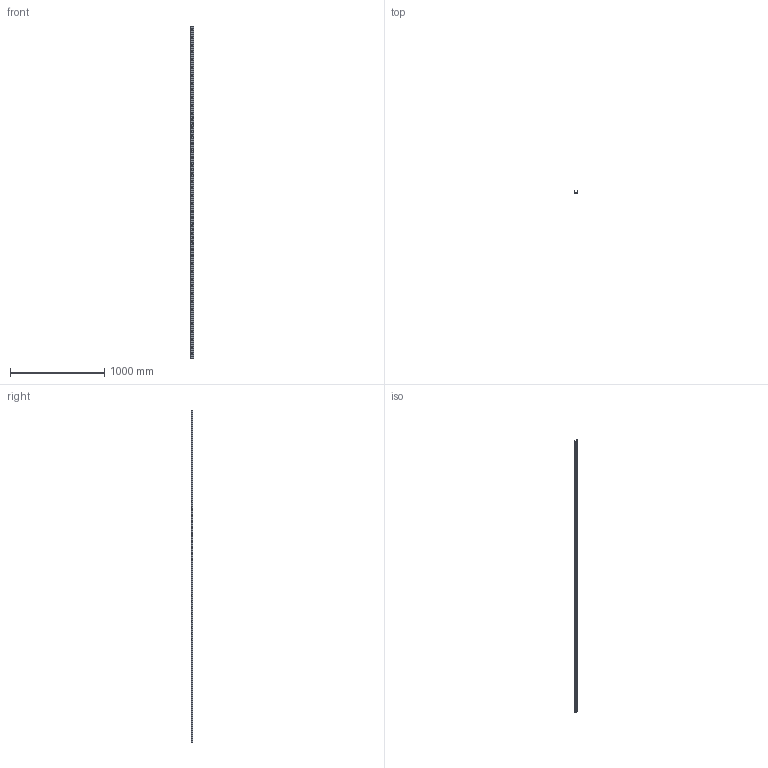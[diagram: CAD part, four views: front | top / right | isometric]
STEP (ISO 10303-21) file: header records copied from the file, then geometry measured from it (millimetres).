
FILE_DESCRIPTION(('STEP AP214'),'1');
FILE_NAME('rail_tex40-3520.stp','2019-03-08T08:34:00',('TraceParts'),('TraceParts S.A.'),'Spatial InterOp 3D',' ',' ');
FILE_SCHEMA(('automotive_design'));
Length unit declared in the file: millimetre
Products named in the file (1): rail_tex40-3520
Bounding box: 39.53 x 21 x 3520 mm (x, y, z)
Volume: 688232.8 mm3; surface area: 484641 mm2
Topology: 1 solids, 1 shells, 741 faces, 1920 edges, 1280 vertices
Faces by surface type: plane 520, bspline 121, cylinder 100
Entity records: 47053 total; most frequent: CARTESIAN_POINT 23379, ORIENTED_EDGE 3840, DIRECTION 3120, EDGE_CURVE 1920, LINE 1478, VECTOR 1478, VERTEX_POINT 1280, EDGE_LOOP 928
